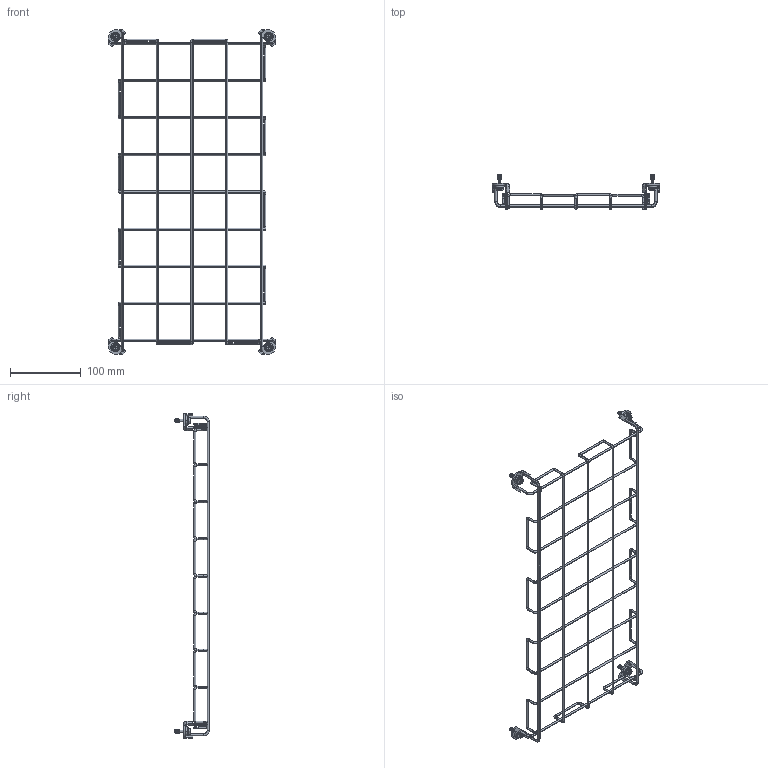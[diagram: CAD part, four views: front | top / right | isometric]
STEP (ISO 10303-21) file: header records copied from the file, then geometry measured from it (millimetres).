
FILE_DESCRIPTION((''),'2;1');
FILE_NAME('FLWG_SW','2021-04-16T13:44:15',('gatsonnb'),(''),'CREO PARAMETRIC BY PTC INC, 2019080','CREO PARAMETRIC BY PTC INC, 2019080','');
FILE_SCHEMA(('CONFIG_CONTROL_DESIGN'));
Length unit declared in the file: inch
Products named in the file (1): FLWG_SW
Bounding box: 235.67 x 48.56 x 457.92 mm (x, y, z)
Volume: 43995.4 mm3; surface area: 56396.6 mm2
Topology: 4 solids, 4 shells, 732 faces, 1901 edges, 1183 vertices
Faces by surface type: cylinder 296, plane 244, torus 134, cone 32, bspline 26
Entity records: 42840 total; most frequent: CARTESIAN_POINT 25334, ORIENTED_EDGE 3782, DIRECTION 3530, EDGE_CURVE 1891, AXIS2_PLACEMENT_3D 1305, VERTEX_POINT 1183, VECTOR 920, LINE 920
